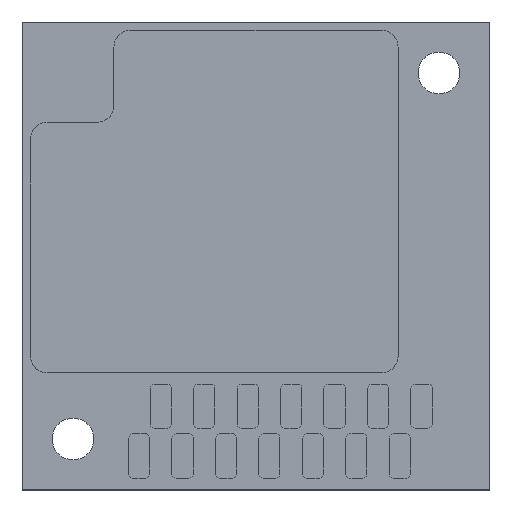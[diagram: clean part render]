
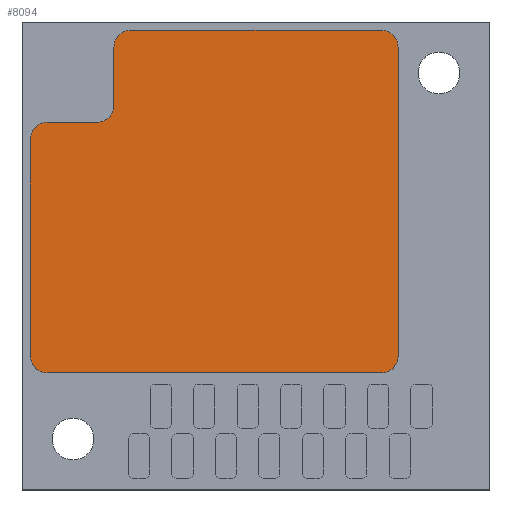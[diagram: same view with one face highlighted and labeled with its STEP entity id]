
A CAD part, top view. The second image highlights one B-rep face of the part: STEP entity #8094.
In plain terms, the highlighted planar face has unit normal (0, 0, 1).
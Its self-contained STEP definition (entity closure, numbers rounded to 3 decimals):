
#246 = ORIENTED_EDGE ( 'NONE', *, *, #12346, .T. ) ;
#288 = CARTESIAN_POINT ( 'NONE',  ( -22., 21.5, 1.4 ) ) ;
#782 = PLANE ( 'NONE',  #8865 ) ;
#812 = DIRECTION ( 'NONE',  ( 1., 0., 0. ) ) ;
#1205 = CARTESIAN_POINT ( 'NONE',  ( -21., 26., 1.4 ) ) ;
#1210 = CIRCLE ( 'NONE', #8604, 1. ) ;
#1260 = CARTESIAN_POINT ( 'NONE',  ( -26., 20.5, 1.4 ) ) ;
#1334 = EDGE_CURVE ( 'NONE', #1527, #5556, #5320, .T. ) ;
#1527 = VERTEX_POINT ( 'NONE', #8741 ) ;
#1684 = AXIS2_PLACEMENT_3D ( 'NONE', #3474, #10266, #7432 ) ;
#1768 = ORIENTED_EDGE ( 'NONE', *, *, #12466, .T. ) ;
#1800 = ORIENTED_EDGE ( 'NONE', *, *, #1334, .T. ) ;
#1845 = CARTESIAN_POINT ( 'NONE',  ( 0., 0., 1.4 ) ) ;
#1928 = AXIS2_PLACEMENT_3D ( 'NONE', #4886, #5988, #5860 ) ;
#2133 = AXIS2_PLACEMENT_3D ( 'NONE', #8989, #3716, #5753 ) ;
#2222 = CARTESIAN_POINT ( 'NONE',  ( -26., 19.5, 1.4 ) ) ;
#2395 = EDGE_CURVE ( 'NONE', #5556, #11334, #1210, .T. ) ;
#2448 = EDGE_LOOP ( 'NONE', ( #12847, #6367, #11871, #2501, #1800, #4892, #3157, #5158, #6612, #246, #6089, #1768 ) ) ;
#2501 = ORIENTED_EDGE ( 'NONE', *, *, #8287, .T. ) ;
#2539 = CIRCLE ( 'NONE', #4871, 1. ) ;
#2680 = VERTEX_POINT ( 'NONE', #12087 ) ;
#3157 = ORIENTED_EDGE ( 'NONE', *, *, #8362, .T. ) ;
#3395 = DIRECTION ( 'NONE',  ( 0., -1., 0. ) ) ;
#3446 = CARTESIAN_POINT ( 'NONE',  ( -4., 5.5, 1.4 ) ) ;
#3474 = CARTESIAN_POINT ( 'NONE',  ( -20., 25., 1.4 ) ) ;
#3628 = CIRCLE ( 'NONE', #2133, 1. ) ;
#3716 = DIRECTION ( 'NONE',  ( 0., 0., 1. ) ) ;
#3763 = CARTESIAN_POINT ( 'NONE',  ( -4., 26., 1.4 ) ) ;
#3923 = EDGE_CURVE ( 'NONE', #9713, #4487, #2539, .T. ) ;
#4218 = VERTEX_POINT ( 'NONE', #7736 ) ;
#4407 = EDGE_CURVE ( 'NONE', #7028, #10725, #4459, .T. ) ;
#4459 = CIRCLE ( 'NONE', #1928, 1. ) ;
#4487 = VERTEX_POINT ( 'NONE', #2222 ) ;
#4871 = AXIS2_PLACEMENT_3D ( 'NONE', #12763, #10647, #812 ) ;
#4886 = CARTESIAN_POINT ( 'NONE',  ( -5., 25., 1.4 ) ) ;
#4892 = ORIENTED_EDGE ( 'NONE', *, *, #2395, .T. ) ;
#5024 = DIRECTION ( 'NONE',  ( 1., 0., 0. ) ) ;
#5066 = VECTOR ( 'NONE', #10063, 1000. ) ;
#5158 = ORIENTED_EDGE ( 'NONE', *, *, #3923, .T. ) ;
#5181 = DIRECTION ( 'NONE',  ( -1., 0., 0. ) ) ;
#5266 = VECTOR ( 'NONE', #10954, 1000. ) ;
#5306 = DIRECTION ( 'NONE',  ( 0., -1., 0. ) ) ;
#5320 = LINE ( 'NONE', #1205, #10486 ) ;
#5513 = CARTESIAN_POINT ( 'NONE',  ( -4., 25., 1.4 ) ) ;
#5556 = VERTEX_POINT ( 'NONE', #8455 ) ;
#5592 = EDGE_CURVE ( 'NONE', #10725, #8092, #12870, .T. ) ;
#5753 = DIRECTION ( 'NONE',  ( 1., 0., 0. ) ) ;
#5854 = DIRECTION ( 'NONE',  ( 0., 0., 1. ) ) ;
#5860 = DIRECTION ( 'NONE',  ( 1., 0., 0. ) ) ;
#5988 = DIRECTION ( 'NONE',  ( 0., 0., 1. ) ) ;
#6089 = ORIENTED_EDGE ( 'NONE', *, *, #11280, .T. ) ;
#6367 = ORIENTED_EDGE ( 'NONE', *, *, #4407, .T. ) ;
#6612 = ORIENTED_EDGE ( 'NONE', *, *, #7280, .T. ) ;
#6935 = CARTESIAN_POINT ( 'NONE',  ( -26., 5.5, 1.4 ) ) ;
#7028 = VERTEX_POINT ( 'NONE', #5513 ) ;
#7211 = VERTEX_POINT ( 'NONE', #12142 ) ;
#7280 = EDGE_CURVE ( 'NONE', #4487, #2680, #7404, .T. ) ;
#7294 = DIRECTION ( 'NONE',  ( 0., 0., -1. ) ) ;
#7364 = CIRCLE ( 'NONE', #1684, 1. ) ;
#7404 = LINE ( 'NONE', #1260, #10491 ) ;
#7432 = DIRECTION ( 'NONE',  ( 1., 0., 0. ) ) ;
#7736 = CARTESIAN_POINT ( 'NONE',  ( -5., 5.5, 1.4 ) ) ;
#8092 = VERTEX_POINT ( 'NONE', #10824 ) ;
#8094 = ADVANCED_FACE ( 'NONE', ( #12667 ), #782, .T. ) ;
#8287 = EDGE_CURVE ( 'NONE', #8092, #1527, #7364, .T. ) ;
#8362 = EDGE_CURVE ( 'NONE', #11334, #9713, #8635, .T. ) ;
#8455 = CARTESIAN_POINT ( 'NONE',  ( -21., 21.5, 1.4 ) ) ;
#8527 = LINE ( 'NONE', #3446, #12958 ) ;
#8597 = DIRECTION ( 'NONE',  ( 0., 1., 0. ) ) ;
#8604 = AXIS2_PLACEMENT_3D ( 'NONE', #288, #7294, #11314 ) ;
#8635 = LINE ( 'NONE', #12650, #5066 ) ;
#8741 = CARTESIAN_POINT ( 'NONE',  ( -21., 25., 1.4 ) ) ;
#8865 = AXIS2_PLACEMENT_3D ( 'NONE', #1845, #5854, #9634 ) ;
#8874 = EDGE_CURVE ( 'NONE', #9956, #7028, #8527, .T. ) ;
#8894 = CIRCLE ( 'NONE', #12462, 1. ) ;
#8989 = CARTESIAN_POINT ( 'NONE',  ( -25., 6.5, 1.4 ) ) ;
#9130 = CARTESIAN_POINT ( 'NONE',  ( -5., 6.5, 1.4 ) ) ;
#9254 = DIRECTION ( 'NONE',  ( 0., 0., 1. ) ) ;
#9366 = CARTESIAN_POINT ( 'NONE',  ( -22., 20.5, 1.4 ) ) ;
#9472 = CARTESIAN_POINT ( 'NONE',  ( -25., 20.5, 1.4 ) ) ;
#9634 = DIRECTION ( 'NONE',  ( 1., 0., 0. ) ) ;
#9713 = VERTEX_POINT ( 'NONE', #9472 ) ;
#9824 = CARTESIAN_POINT ( 'NONE',  ( -4., 6.5, 1.4 ) ) ;
#9956 = VERTEX_POINT ( 'NONE', #9824 ) ;
#10063 = DIRECTION ( 'NONE',  ( -1., 0., 0. ) ) ;
#10266 = DIRECTION ( 'NONE',  ( 0., 0., 1. ) ) ;
#10486 = VECTOR ( 'NONE', #3395, 1000. ) ;
#10491 = VECTOR ( 'NONE', #5306, 1000. ) ;
#10647 = DIRECTION ( 'NONE',  ( 0., 0., 1. ) ) ;
#10725 = VERTEX_POINT ( 'NONE', #12548 ) ;
#10824 = CARTESIAN_POINT ( 'NONE',  ( -20., 26., 1.4 ) ) ;
#10954 = DIRECTION ( 'NONE',  ( 1., 0., 0. ) ) ;
#11280 = EDGE_CURVE ( 'NONE', #7211, #4218, #11929, .T. ) ;
#11314 = DIRECTION ( 'NONE',  ( 1., 0., 0. ) ) ;
#11334 = VERTEX_POINT ( 'NONE', #9366 ) ;
#11871 = ORIENTED_EDGE ( 'NONE', *, *, #5592, .T. ) ;
#11929 = LINE ( 'NONE', #6935, #5266 ) ;
#12087 = CARTESIAN_POINT ( 'NONE',  ( -26., 6.5, 1.4 ) ) ;
#12142 = CARTESIAN_POINT ( 'NONE',  ( -25., 5.5, 1.4 ) ) ;
#12346 = EDGE_CURVE ( 'NONE', #2680, #7211, #3628, .T. ) ;
#12462 = AXIS2_PLACEMENT_3D ( 'NONE', #9130, #9254, #5024 ) ;
#12466 = EDGE_CURVE ( 'NONE', #4218, #9956, #8894, .T. ) ;
#12548 = CARTESIAN_POINT ( 'NONE',  ( -5., 26., 1.4 ) ) ;
#12650 = CARTESIAN_POINT ( 'NONE',  ( -21., 20.5, 1.4 ) ) ;
#12667 = FACE_OUTER_BOUND ( 'NONE', #2448, .T. ) ;
#12703 = VECTOR ( 'NONE', #5181, 1000. ) ;
#12763 = CARTESIAN_POINT ( 'NONE',  ( -25., 19.5, 1.4 ) ) ;
#12847 = ORIENTED_EDGE ( 'NONE', *, *, #8874, .T. ) ;
#12870 = LINE ( 'NONE', #3763, #12703 ) ;
#12958 = VECTOR ( 'NONE', #8597, 1000. ) ;
